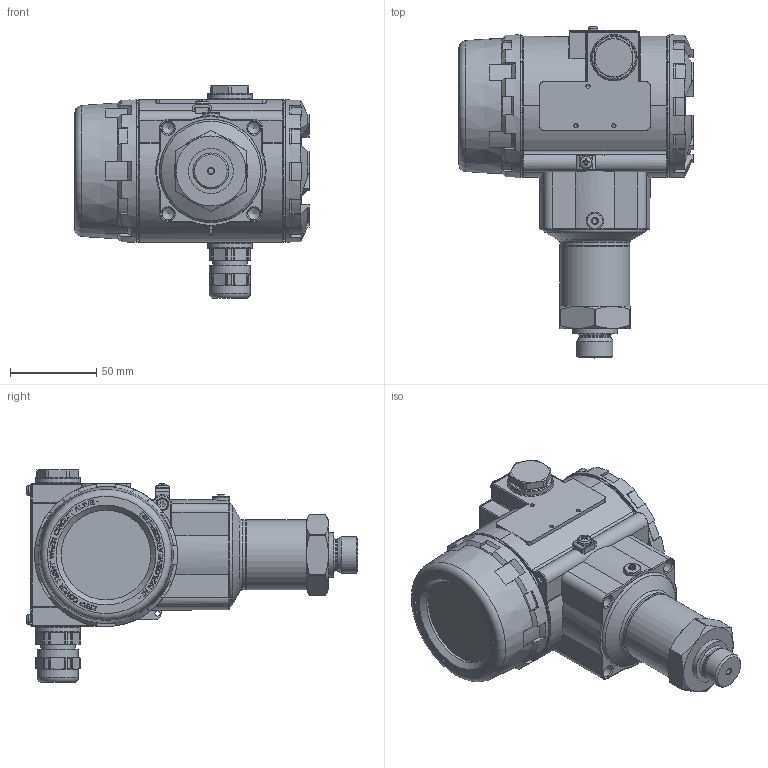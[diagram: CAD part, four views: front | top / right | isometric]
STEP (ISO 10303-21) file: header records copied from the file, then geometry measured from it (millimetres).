
FILE_DESCRIPTION(/* description */ (''),/* implementation_level */ '2;1');
FILE_NAME(/* name */ 'C:\Users\cz1166\Documents\STEP\XMPci-51E-xxxx-A0-x-x-AK0-100-x-x-000.stp',/* time_stamp */ '2020-04-22T07:57:59+02:00',/* author */ ('cz1166'),/* organization */ (''),/* preprocessor_version */ 'ST-DEVELOPER v16.5',/* originating_system */ 'Autodesk Inventor 2017',/* authorisation */ '');
FILE_SCHEMA (('AUTOMOTIVE_DESIGN { 1 0 10303 214 3 1 1 }'));
Length unit declared in the file: millimetre
Products named in the file (1): XMPci-51E-xxxx-A0-x-x-AK0-100-x-x-000
Bounding box: 136 x 192.68 x 123.57 mm (x, y, z)
Volume: 503378.8 mm3; surface area: 135332.1 mm2
Topology: 1 solids, 1 shells, 2421 faces, 6464 edges, 4200 vertices
Faces by surface type: plane 1545, bspline 386, cylinder 270, cone 139, torus 68, sphere 13
Full cylindrical faces by diameter (mm): 2 x1, 2.459 x6, 2.46 x3, 2.729 x1, 3 x1, 3.242 x1, 3.3 x1, 4 x4, 4.5 x1, 5 x1, 5.188 x2, 6 x2, 6.917 x4, 7 x2, 7.5 x2, 10 x1, 18.376 x2, 18.4 x1, 20 x1, 20.955 x1, 24 x2, 26 x3, 28 x1, 40 x1, 40.6 x2, 48 x1, 52 x1, 52.4 x1, 53.5 x1, 54.2 x1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
Entity records: 80229 total; most frequent: CARTESIAN_POINT 20796, ORIENTED_EDGE 12494, DIRECTION 10339, EDGE_CURVE 6245, LINE 4203, VECTOR 4203, VERTEX_POINT 4136, AXIS2_PLACEMENT_3D 3068
